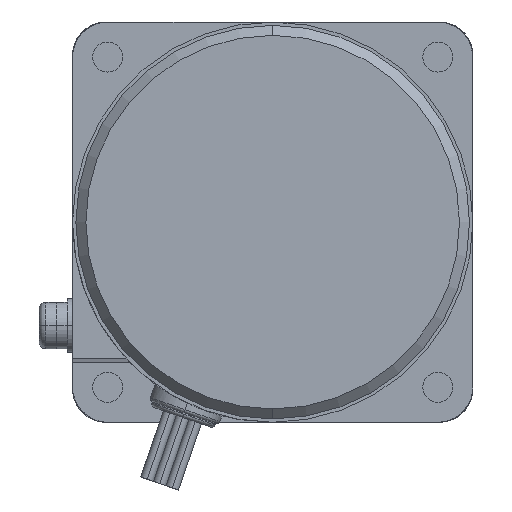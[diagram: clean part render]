
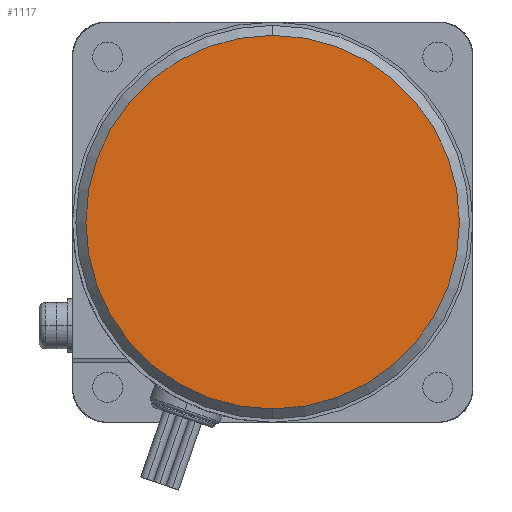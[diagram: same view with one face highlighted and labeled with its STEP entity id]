
A CAD part, left-side view. The second image highlights one B-rep face of the part: STEP entity #1117.
In plain terms, the highlighted planar face has unit normal (-1, 0, 0).
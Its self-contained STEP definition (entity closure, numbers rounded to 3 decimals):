
#1097=CARTESIAN_POINT('POINT42886',(-105.,0.,
   18.));
#1098=VERTEX_POINT('VERTEX42886',#1097);
#1099=CARTESIAN_POINT('POINT42887',(-105.,0.,
   -38.));
#1100=VERTEX_POINT('VERTEX42887',#1099);
#1101=CARTESIAN_POINT('POS74341',(-105.,0.,-10.));
#1102=DIRECTION('DIR112595',(1.,0.,0.));
#1103=DIRECTION('DIR112596',(0.,0.,1.));
#1104=AXIS2_PLACEMENT_3D('AXIS38255',#1101,#1102,#1103);
#1105=CIRCLE('ELLIPSE17944',#1104,28.);
#1106=EDGE_CURVE('EDGE65590',#1098,#1100,#1105,.T.);
#1107=ORIENTED_EDGE('COEDGE131171',*,*,#1106,.F.);
#1108=EDGE_CURVE('EDGE65591',#1100,#1098,#1105,.T.);
#1109=ORIENTED_EDGE('COEDGE131172',*,*,#1108,.F.);
#1110=EDGE_LOOP('NONE',(#1107,#1109));
#1111=FACE_BOUND('LOOP1',#1110,.T.);
#1112=CARTESIAN_POINT('POS74342',(-105.,0.,
   4.));
#1113=DIRECTION('DIR112597',(-1.,0.,0.));
#1114=DIRECTION('DIR112598',(0.,1.,0.));
#1115=AXIS2_PLACEMENT_3D('AXIS38256',#1112,#1113,#1114);
#1116=PLANE('PLANE11809',#1115);
#1117=ADVANCED_FACE('FACE27152',(#1111),#1116,.T.);
